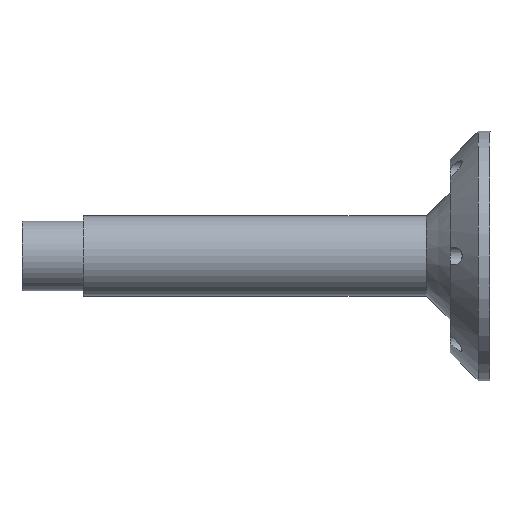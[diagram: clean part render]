
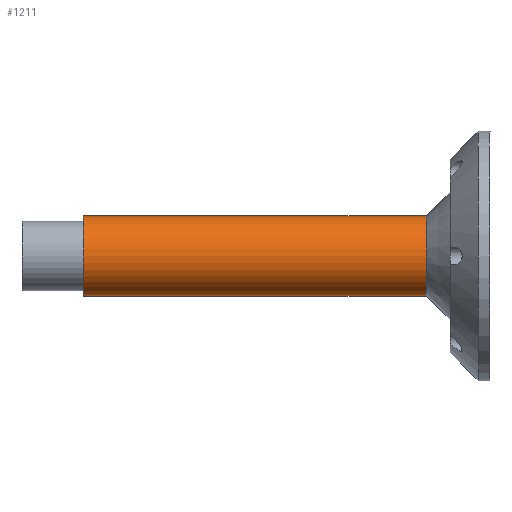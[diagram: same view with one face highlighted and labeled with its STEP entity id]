
A CAD part, front view. The second image highlights one B-rep face of the part: STEP entity #1211.
In plain terms, the highlighted cylindrical face has radius 20.1 mm (diameter 40.2 mm), a partial arc.
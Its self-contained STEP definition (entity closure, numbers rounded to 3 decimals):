
#11 = EDGE_CURVE ( 'NONE', #209, #1241, #83, .T. ) ;
#50 = AXIS2_PLACEMENT_3D ( 'NONE', #146, #128, #113 ) ;
#58 = DIRECTION ( 'NONE',  ( -1., 0., 0. ) ) ;
#83 = CIRCLE ( 'NONE', #1133, 20.1 ) ;
#97 = LINE ( 'NONE', #243, #258 ) ;
#113 = DIRECTION ( 'NONE',  ( 0., 0., 1. ) ) ;
#128 = DIRECTION ( 'NONE',  ( 1., 0., 0. ) ) ;
#144 = ORIENTED_EDGE ( 'NONE', *, *, #795, .T. ) ;
#146 = CARTESIAN_POINT ( 'NONE',  ( 1016., 0., 1720. ) ) ;
#167 = CIRCLE ( 'NONE', #50, 20.1 ) ;
#186 = CARTESIAN_POINT ( 'NONE',  ( 632.046, 0., 1699.9 ) ) ;
#189 = VERTEX_POINT ( 'NONE', #311 ) ;
#200 = DIRECTION ( 'NONE',  ( -1., 0., 0. ) ) ;
#209 = VERTEX_POINT ( 'NONE', #283 ) ;
#210 = VERTEX_POINT ( 'NONE', #282 ) ;
#242 = LINE ( 'NONE', #186, #291 ) ;
#243 = CARTESIAN_POINT ( 'NONE',  ( 632.046, 0., 1740.1 ) ) ;
#244 = DIRECTION ( 'NONE',  ( 0., 0., 1. ) ) ;
#249 = DIRECTION ( 'NONE',  ( -1., 0., 0. ) ) ;
#258 = VECTOR ( 'NONE', #58, 1000. ) ;
#259 = CARTESIAN_POINT ( 'NONE',  ( 1188., 0., 1720. ) ) ;
#282 = CARTESIAN_POINT ( 'NONE',  ( 1016., 0., 1699.9 ) ) ;
#283 = CARTESIAN_POINT ( 'NONE',  ( 1188., 0., 1699.9 ) ) ;
#291 = VECTOR ( 'NONE', #200, 1000. ) ;
#311 = CARTESIAN_POINT ( 'NONE',  ( 1016., 0., 1740.1 ) ) ;
#402 = EDGE_LOOP ( 'NONE', ( #666, #1397, #1089, #144 ) ) ;
#499 = FACE_OUTER_BOUND ( 'NONE', #402, .T. ) ;
#596 = EDGE_CURVE ( 'NONE', #209, #210, #242, .T. ) ;
#666 = ORIENTED_EDGE ( 'NONE', *, *, #596, .F. ) ;
#675 = EDGE_CURVE ( 'NONE', #1241, #189, #97, .T. ) ;
#758 = CARTESIAN_POINT ( 'NONE',  ( 1188., 0., 1740.1 ) ) ;
#795 = EDGE_CURVE ( 'NONE', #189, #210, #167, .T. ) ;
#796 = DIRECTION ( 'NONE',  ( -1., 0., 0. ) ) ;
#803 = CARTESIAN_POINT ( 'NONE',  ( 632.046, 0., 1720. ) ) ;
#806 = DIRECTION ( 'NONE',  ( 0., 0., 1. ) ) ;
#998 = CYLINDRICAL_SURFACE ( 'NONE', #1381, 20.1 ) ;
#1089 = ORIENTED_EDGE ( 'NONE', *, *, #675, .T. ) ;
#1133 = AXIS2_PLACEMENT_3D ( 'NONE', #259, #249, #244 ) ;
#1211 = ADVANCED_FACE ( 'NONE', ( #499 ), #998, .T. ) ;
#1241 = VERTEX_POINT ( 'NONE', #758 ) ;
#1381 = AXIS2_PLACEMENT_3D ( 'NONE', #803, #796, #806 ) ;
#1397 = ORIENTED_EDGE ( 'NONE', *, *, #11, .T. ) ;
